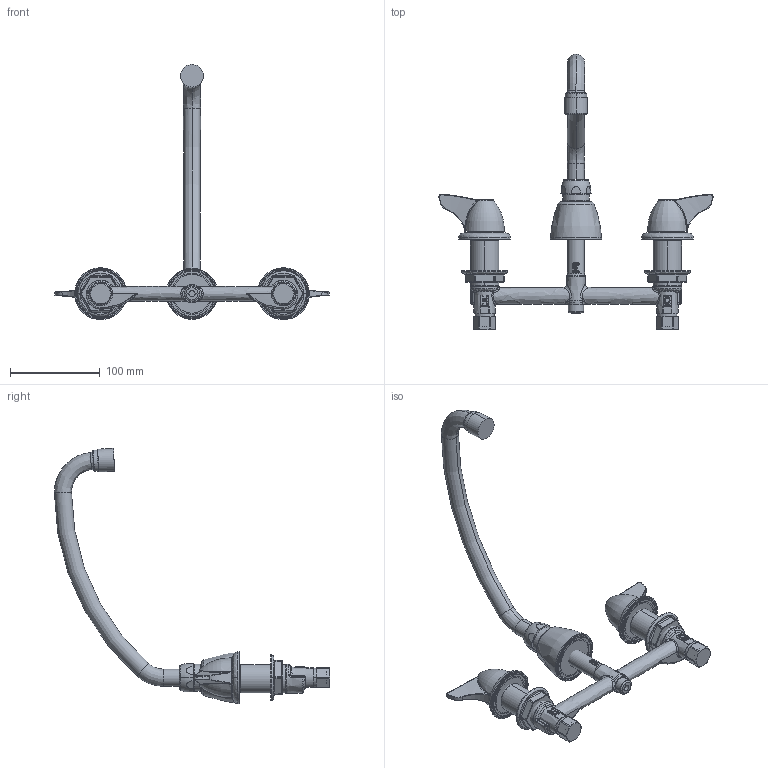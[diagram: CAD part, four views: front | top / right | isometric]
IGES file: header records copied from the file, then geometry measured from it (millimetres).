
Start section:  PTC IGES file: 201-AVPA1000CP_REV061311.igs
Global section: file name: 201-AVPA1000CP_REV061311.igs; native system: Pro/ENGINEER by Parametric Technology Corporation; preprocessor: 2010230; author: sdmitruk; organization: Unknown; date: 20110613.154212; units: inch
Bounding box: 304.8 x 306.02 x 283.76 mm (x, y, z)
Surface area: 124217.1 mm2 (no closed solid volume)
Topology: 0 solids, 0 shells, 733 faces, 4979 edges, 6588 vertices
Faces by surface type: revolution 371, bspline 362
